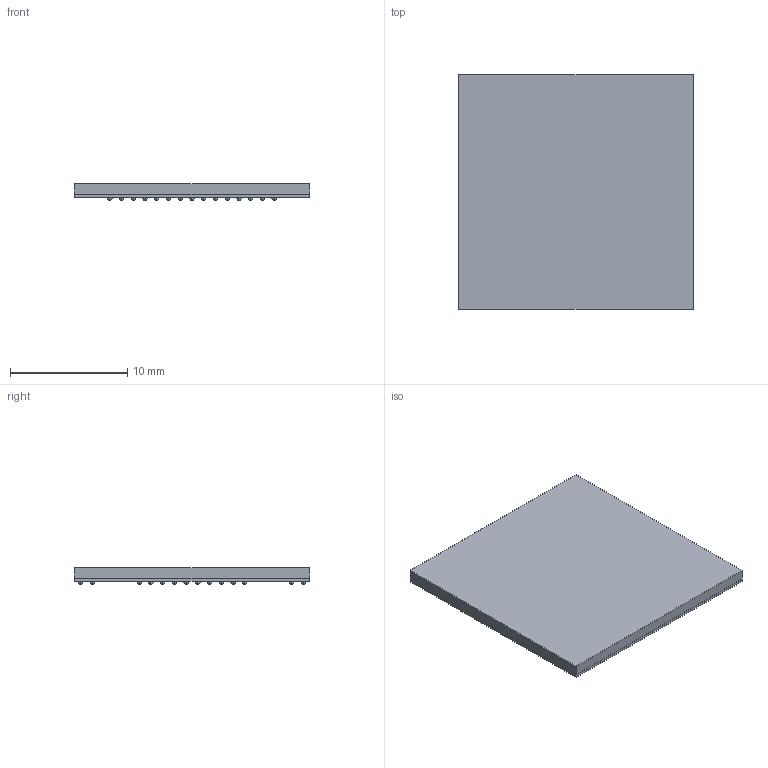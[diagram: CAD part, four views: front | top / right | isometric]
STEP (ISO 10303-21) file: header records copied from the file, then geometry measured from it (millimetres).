
FILE_DESCRIPTION (( 'STEP AP214' ), '1' );
FILE_NAME ('SD20408-000_POD_96FBGA_20.00X20.00_1.00_MAX 1.51T(0.90MM MOLD)_STEP.STEP', '2025-06-25T01:00:39', ( 'HD2022110801S' ), ( '' ), 'SwSTEP 2.0', 'SolidWorks 2022', '' );
FILE_SCHEMA (( 'AUTOMOTIVE_DESIGN' ));
Length unit declared in the file: millimetre
Products named in the file (4): 0.9T_Mold; Solder_Ball; SD20408-000_POD_96FBGA_20.00X20.00_1.00_MAX 1.51T(0.90MM MOLD)_STEP; Sub
Assembly tree (98 placements, depth 2):
  SD20408-000_POD_96FBGA_20.00X20.00_1.00_MAX 1.51T(0.90MM MOLD)_STEP
    Sub
    0.9T_Mold
    Solder_Ball  x96
Bounding box: 20 x 20 x 1.43 mm (x, y, z)
Volume: 466.1 mm3; surface area: 1734.2 mm2
Topology: 98 solids, 98 shells, 876 faces, 2040 edges, 1360 vertices
Faces by surface type: cylinder 384, plane 300, sphere 192
Entity records: 9048 total; most frequent: DIRECTION 1816, CARTESIAN_POINT 1424, ORIENTED_EDGE 1220, AXIS2_PLACEMENT_3D 799, EDGE_CURVE 610, VERTEX_POINT 407, EDGE_LOOP 403, CIRCLE 392
